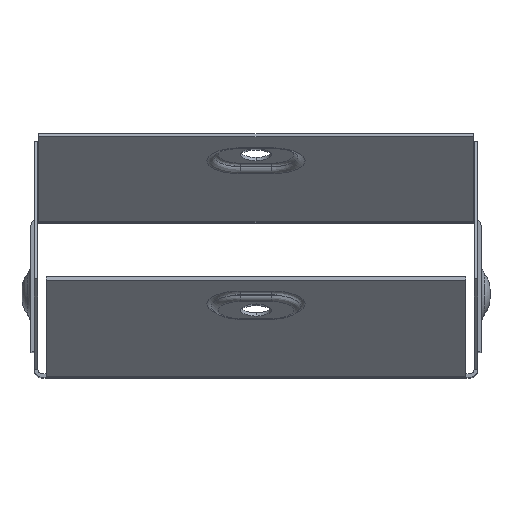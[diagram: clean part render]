
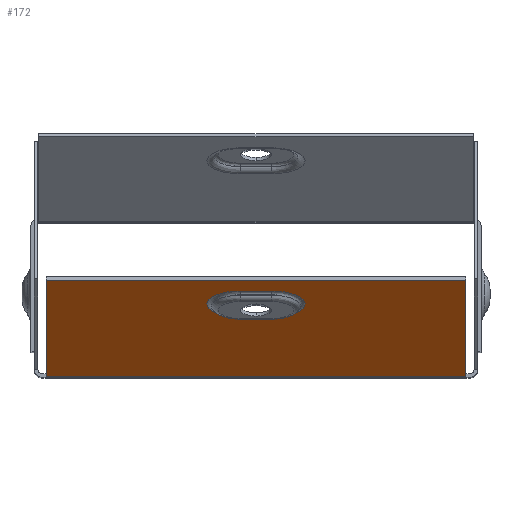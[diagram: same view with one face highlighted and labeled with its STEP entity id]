
A CAD part, top view. The second image highlights one B-rep face of the part: STEP entity #172.
In plain terms, the highlighted planar face has unit normal (0, -0.924, 0.383).
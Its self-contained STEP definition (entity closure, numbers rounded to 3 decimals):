
#172 = ADVANCED_FACE ( 'NONE', ( #7521, #12848 ), #583, .F. ) ;
#202 = CIRCLE ( 'NONE', #10580, 7.598 ) ;
#234 = CARTESIAN_POINT ( 'NONE',  ( -47.299, -35.8, 55.085 ) ) ;
#583 = PLANE ( 'NONE',  #12090 ) ;
#702 = DIRECTION ( 'NONE',  ( 1., 0., 0. ) ) ;
#934 = LINE ( 'NONE', #2320, #11651 ) ;
#1194 = EDGE_LOOP ( 'NONE', ( #6660, #3115, #4124, #4947 ) ) ;
#1588 = CARTESIAN_POINT ( 'NONE',  ( -3.5, -16.38, 101.97 ) ) ;
#1857 = ORIENTED_EDGE ( 'NONE', *, *, #6484, .T. ) ;
#2145 = CARTESIAN_POINT ( 'NONE',  ( -47.299, -35.663, 55.416 ) ) ;
#2149 = ORIENTED_EDGE ( 'NONE', *, *, #6914, .T. ) ;
#2320 = CARTESIAN_POINT ( 'NONE',  ( 47.299, -35.864, 54.931 ) ) ;
#2411 = VERTEX_POINT ( 'NONE', #2145 ) ;
#2526 = VERTEX_POINT ( 'NONE', #1588 ) ;
#2660 = DIRECTION ( 'NONE',  ( 0., 0.924, -0.383 ) ) ;
#2839 = VECTOR ( 'NONE', #13422, 1000. ) ;
#2938 = DIRECTION ( 'NONE',  ( 0., 0.924, -0.383 ) ) ;
#3025 = VERTEX_POINT ( 'NONE', #11970 ) ;
#3115 = ORIENTED_EDGE ( 'NONE', *, *, #7262, .F. ) ;
#3379 = VECTOR ( 'NONE', #12350, 1000. ) ;
#3480 = LINE ( 'NONE', #3976, #2839 ) ;
#3519 = CARTESIAN_POINT ( 'NONE',  ( -47.299, -13.93, 107.885 ) ) ;
#3976 = CARTESIAN_POINT ( 'NONE',  ( 3.5, -22.195, 87.931 ) ) ;
#4124 = ORIENTED_EDGE ( 'NONE', *, *, #8674, .T. ) ;
#4258 = ORIENTED_EDGE ( 'NONE', *, *, #13231, .T. ) ;
#4904 = VERTEX_POINT ( 'NONE', #3519 ) ;
#4934 = DIRECTION ( 'NONE',  ( 0., -0.383, -0.924 ) ) ;
#4947 = ORIENTED_EDGE ( 'NONE', *, *, #10603, .T. ) ;
#5054 = CARTESIAN_POINT ( 'NONE',  ( -3.5, -19.287, 94.95 ) ) ;
#5418 = VECTOR ( 'NONE', #12432, 1000. ) ;
#5674 = VERTEX_POINT ( 'NONE', #10359 ) ;
#5994 = CARTESIAN_POINT ( 'NONE',  ( 48.2, -13.93, 107.885 ) ) ;
#6484 = EDGE_CURVE ( 'NONE', #5674, #2526, #9679, .T. ) ;
#6660 = ORIENTED_EDGE ( 'NONE', *, *, #7040, .T. ) ;
#6914 = EDGE_CURVE ( 'NONE', #8717, #5674, #3480, .T. ) ;
#7040 = EDGE_CURVE ( 'NONE', #4904, #2411, #12883, .T. ) ;
#7200 = DIRECTION ( 'NONE',  ( 0., 0.924, -0.383 ) ) ;
#7222 = VECTOR ( 'NONE', #4934, 1000. ) ;
#7262 = EDGE_CURVE ( 'NONE', #3025, #2411, #12074, .T. ) ;
#7304 = LINE ( 'NONE', #7889, #7629 ) ;
#7521 = FACE_BOUND ( 'NONE', #7803, .T. ) ;
#7629 = VECTOR ( 'NONE', #702, 1000. ) ;
#7803 = EDGE_LOOP ( 'NONE', ( #10041, #4258, #2149, #1857 ) ) ;
#7889 = CARTESIAN_POINT ( 'NONE',  ( 3.5, -16.38, 101.97 ) ) ;
#8273 = LINE ( 'NONE', #5994, #3379 ) ;
#8674 = EDGE_CURVE ( 'NONE', #3025, #11985, #934, .T. ) ;
#8717 = VERTEX_POINT ( 'NONE', #12858 ) ;
#8897 = CARTESIAN_POINT ( 'NONE',  ( 48.2, -35.8, 55.085 ) ) ;
#9001 = VERTEX_POINT ( 'NONE', #12985 ) ;
#9582 = DIRECTION ( 'NONE',  ( 0., 0.383, 0.924 ) ) ;
#9679 = CIRCLE ( 'NONE', #12592, 7.598 ) ;
#9942 = DIRECTION ( 'NONE',  ( 0., 0.383, 0.924 ) ) ;
#10041 = ORIENTED_EDGE ( 'NONE', *, *, #10760, .T. ) ;
#10209 = DIRECTION ( 'NONE',  ( 0., 0.383, 0.924 ) ) ;
#10359 = CARTESIAN_POINT ( 'NONE',  ( -3.5, -22.195, 87.931 ) ) ;
#10580 = AXIS2_PLACEMENT_3D ( 'NONE', #11220, #2938, #10209 ) ;
#10603 = EDGE_CURVE ( 'NONE', #11985, #4904, #8273, .T. ) ;
#10760 = EDGE_CURVE ( 'NONE', #2526, #9001, #7304, .T. ) ;
#10804 = CARTESIAN_POINT ( 'NONE',  ( 47.299, -13.93, 107.885 ) ) ;
#11220 = CARTESIAN_POINT ( 'NONE',  ( 3.5, -19.287, 94.95 ) ) ;
#11651 = VECTOR ( 'NONE', #9582, 1000. ) ;
#11970 = CARTESIAN_POINT ( 'NONE',  ( 47.299, -35.663, 55.416 ) ) ;
#11985 = VERTEX_POINT ( 'NONE', #10804 ) ;
#12074 = LINE ( 'NONE', #12479, #5418 ) ;
#12090 = AXIS2_PLACEMENT_3D ( 'NONE', #8897, #2660, #9942 ) ;
#12350 = DIRECTION ( 'NONE',  ( -1., 0., 0. ) ) ;
#12432 = DIRECTION ( 'NONE',  ( -1., 0., 0. ) ) ;
#12479 = CARTESIAN_POINT ( 'NONE',  ( 48.2, -35.663, 55.416 ) ) ;
#12592 = AXIS2_PLACEMENT_3D ( 'NONE', #5054, #7200, #13402 ) ;
#12848 = FACE_OUTER_BOUND ( 'NONE', #1194, .T. ) ;
#12858 = CARTESIAN_POINT ( 'NONE',  ( 3.5, -22.195, 87.931 ) ) ;
#12883 = LINE ( 'NONE', #234, #7222 ) ;
#12985 = CARTESIAN_POINT ( 'NONE',  ( 3.5, -16.38, 101.97 ) ) ;
#13231 = EDGE_CURVE ( 'NONE', #9001, #8717, #202, .T. ) ;
#13402 = DIRECTION ( 'NONE',  ( 0., 0.383, 0.924 ) ) ;
#13422 = DIRECTION ( 'NONE',  ( -1., 0., 0. ) ) ;
